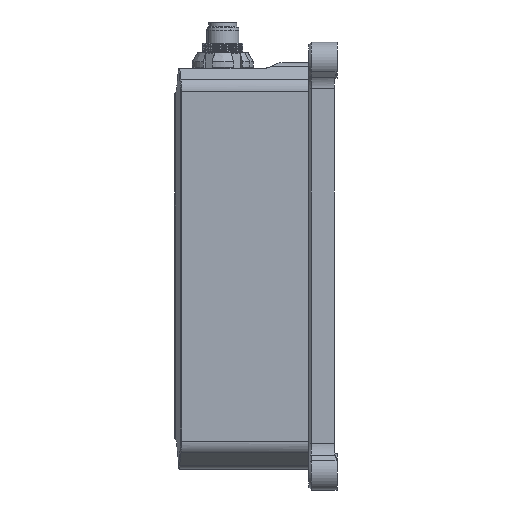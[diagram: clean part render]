
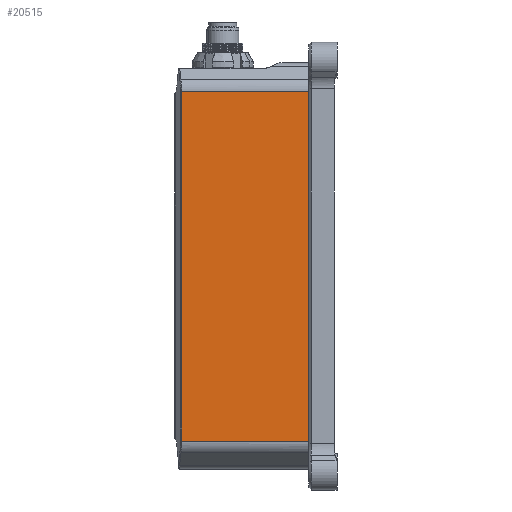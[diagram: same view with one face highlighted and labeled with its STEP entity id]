
A CAD part, left-side view. The second image highlights one B-rep face of the part: STEP entity #20515.
In plain terms, the highlighted planar face has unit normal (-1, 0, 0).
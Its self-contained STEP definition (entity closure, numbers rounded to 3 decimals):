
#3596 = VECTOR ( 'NONE', #41644, 1000. ) ;
#5060 = VERTEX_POINT ( 'NONE', #122841 ) ;
#8279 = VERTEX_POINT ( 'NONE', #46842 ) ;
#10419 = CARTESIAN_POINT ( 'NONE',  ( -30.5, 26., -33.983 ) ) ;
#12787 = ORIENTED_EDGE ( 'NONE', *, *, #75655, .T. ) ;
#12906 = DIRECTION ( 'NONE',  ( 1., 0., 0. ) ) ;
#13201 = EDGE_CURVE ( 'NONE', #33651, #58417, #118060, .T. ) ;
#20515 = ADVANCED_FACE ( 'NONE', ( #86580 ), #109960, .F. ) ;
#33651 = VERTEX_POINT ( 'NONE', #136619 ) ;
#34871 = DIRECTION ( 'NONE',  ( 0., -1., 0. ) ) ;
#36285 = LINE ( 'NONE', #88624, #64904 ) ;
#38089 = EDGE_LOOP ( 'NONE', ( #116285, #65017, #12787, #111071 ) ) ;
#41644 = DIRECTION ( 'NONE',  ( 0., -1., 0. ) ) ;
#46842 = CARTESIAN_POINT ( 'NONE',  ( -30.5, 24.7, -33.983 ) ) ;
#50159 = VECTOR ( 'NONE', #34871, 1000. ) ;
#54957 = CARTESIAN_POINT ( 'NONE',  ( -30.5, 26., 33.983 ) ) ;
#55168 = CARTESIAN_POINT ( 'NONE',  ( -30.5, 0., 33.983 ) ) ;
#58417 = VERTEX_POINT ( 'NONE', #93959 ) ;
#64904 = VECTOR ( 'NONE', #149520, 1000. ) ;
#65017 = ORIENTED_EDGE ( 'NONE', *, *, #66851, .T. ) ;
#66851 = EDGE_CURVE ( 'NONE', #33651, #8279, #36285, .T. ) ;
#75279 = AXIS2_PLACEMENT_3D ( 'NONE', #85868, #12906, #98166 ) ;
#75655 = EDGE_CURVE ( 'NONE', #8279, #5060, #111179, .T. ) ;
#81828 = LINE ( 'NONE', #55168, #146815 ) ;
#85868 = CARTESIAN_POINT ( 'NONE',  ( -30.5, 26., 33.983 ) ) ;
#86580 = FACE_OUTER_BOUND ( 'NONE', #38089, .T. ) ;
#88624 = CARTESIAN_POINT ( 'NONE',  ( -30.5, 24.7, 33.983 ) ) ;
#90882 = DIRECTION ( 'NONE',  ( 0., 0., 1. ) ) ;
#93959 = CARTESIAN_POINT ( 'NONE',  ( -30.5, 0., 33.983 ) ) ;
#98166 = DIRECTION ( 'NONE',  ( 0., 0., -1. ) ) ;
#106282 = EDGE_CURVE ( 'NONE', #5060, #58417, #81828, .T. ) ;
#109960 = PLANE ( 'NONE',  #75279 ) ;
#111071 = ORIENTED_EDGE ( 'NONE', *, *, #106282, .T. ) ;
#111179 = LINE ( 'NONE', #10419, #50159 ) ;
#116285 = ORIENTED_EDGE ( 'NONE', *, *, #13201, .F. ) ;
#118060 = LINE ( 'NONE', #54957, #3596 ) ;
#122841 = CARTESIAN_POINT ( 'NONE',  ( -30.5, 0., -33.983 ) ) ;
#136619 = CARTESIAN_POINT ( 'NONE',  ( -30.5, 24.7, 33.983 ) ) ;
#146815 = VECTOR ( 'NONE', #90882, 1000. ) ;
#149520 = DIRECTION ( 'NONE',  ( 0., 0., -1. ) ) ;
